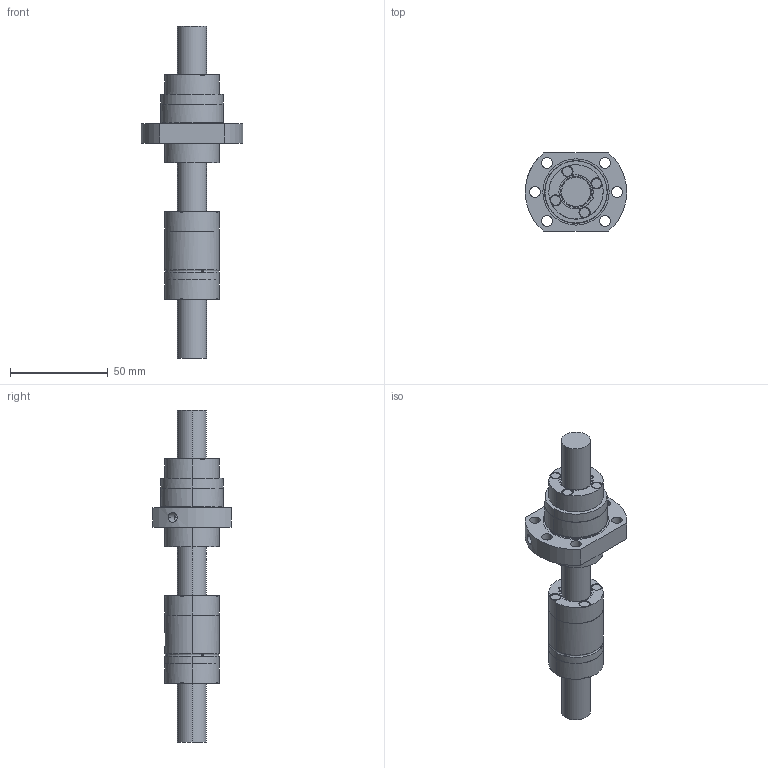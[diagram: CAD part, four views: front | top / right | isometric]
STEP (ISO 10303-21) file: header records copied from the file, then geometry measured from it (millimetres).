
FILE_DESCRIPTION(('Creo Elements/Direct Modeling STEP Export'),'2;1');
FILE_NAME('HSB-KGT-M-1640RH-4g.stp','2015-05-07T16:34:27',(''),(''),'Creo Elements/Direct Modeling STEP processor for AP214 (Solid Model)','Creo Elements/Direct Modeling 18.1F 24-Jul-2014 (C) Parametric Technology GmbH','');
FILE_SCHEMA(('AUTOMOTIVE_DESIGN { 1 0 10303 214 1 1 1 1 }'));
Length unit declared in the file: millimetre
Products named in the file (3): HSB-KGM-F-1640RH-4g_23634; HSB-KGM-M-1640RH-4g_23633; HSB-KGS-1640RH-4g-T7_24358
Bounding box: 51.83 x 40 x 170 mm (x, y, z)
Volume: 82098.8 mm3; surface area: 26544.5 mm2
Topology: 3 solids, 3 shells, 225 faces, 627 edges, 417 vertices
Faces by surface type: cylinder 99, cone 70, plane 50, torus 6
Entity records: 13495 total; most frequent: CARTESIAN_POINT 6501, ORIENTED_EDGE 1254, DIRECTION 924, EDGE_CURVE 627, VERTEX_POINT 417, AXIS2_PLACEMENT_3D 382, EDGE_LOOP 250, COLOUR_RGB 228
